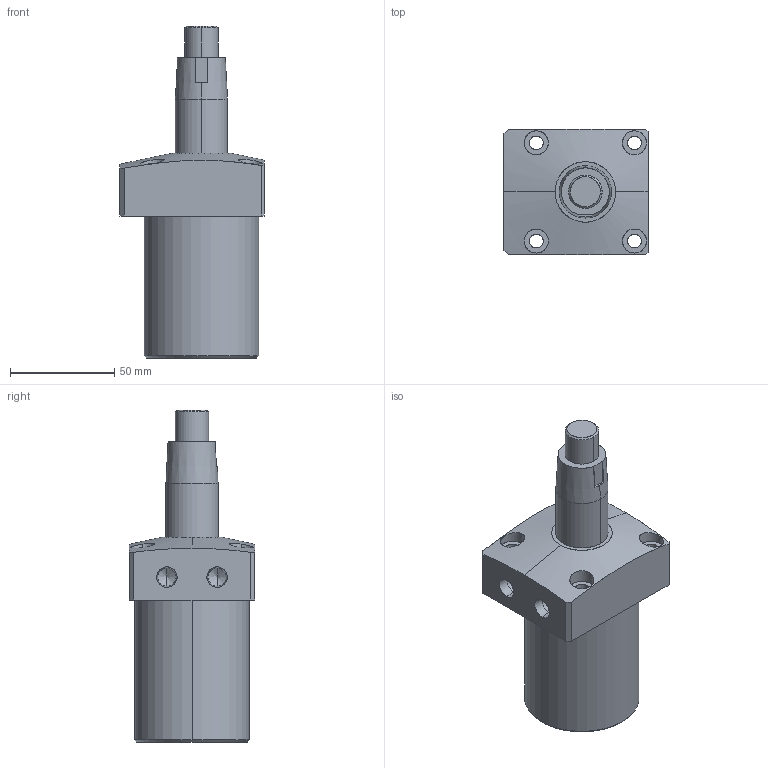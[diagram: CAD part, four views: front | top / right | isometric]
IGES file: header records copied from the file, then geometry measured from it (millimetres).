
Start section: SolidWorks IGES file using analytic representation for surfaces
Global section: file name: E:\ALL SSVT IGS MODEL\ALL-SWING-IGS\SWING-55\SWING-TOP-55-TAPER-LH-RH\SC02-55-R-TOP-TAPER.IGS; native system: SolidWorks 2019; preprocessor: SolidWorks 2019; author: SSVT; date: 210822.132550; units: millimetre
Bounding box: 69 x 60 x 159 mm (x, y, z)
Surface area: 44552.6 mm2 (no closed solid volume)
Topology: 0 solids, 0 shells, 73 faces, 1536 edges, 1532 vertices
Faces by surface type: revolution 48, bspline 25
